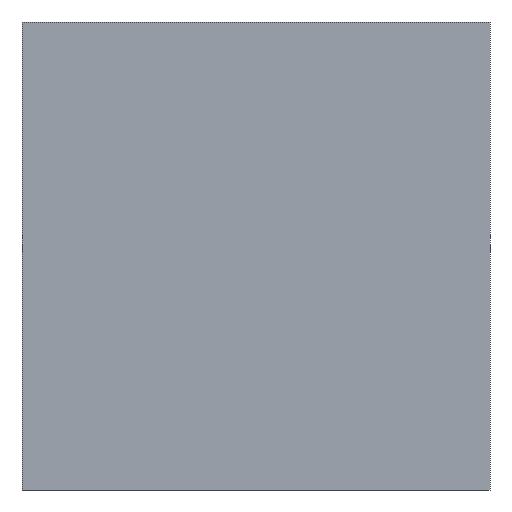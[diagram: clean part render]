
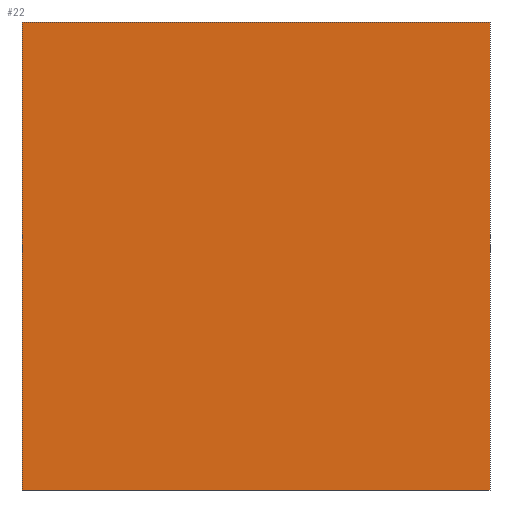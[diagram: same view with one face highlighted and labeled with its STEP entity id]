
A CAD part, front view. The second image highlights one B-rep face of the part: STEP entity #22.
In plain terms, the highlighted planar face has unit normal (0, -1, 0).
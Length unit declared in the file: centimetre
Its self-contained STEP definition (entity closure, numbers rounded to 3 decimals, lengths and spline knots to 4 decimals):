
#3 = ORIENTED_EDGE ( 'NONE', *, *, #261, .T. ) ;
#9 = VERTEX_POINT ( 'NONE', #180 ) ;
#12 = AXIS2_PLACEMENT_3D ( 'NONE', #203, #97, #37 ) ;
#16 = VERTEX_POINT ( 'NONE', #230 ) ;
#22 = ADVANCED_FACE ( 'NONE', ( #94 ), #54, .F. ) ;
#37 = DIRECTION ( 'NONE',  ( 0., 0., 1. ) ) ;
#40 = ORIENTED_EDGE ( 'NONE', *, *, #358, .F. ) ;
#54 = PLANE ( 'NONE',  #12 ) ;
#73 = CARTESIAN_POINT ( 'NONE',  ( 0., 0., 1000. ) ) ;
#86 = CARTESIAN_POINT ( 'NONE',  ( 0., 0., 0. ) ) ;
#88 = VECTOR ( 'NONE', #347, 100. ) ;
#94 = FACE_OUTER_BOUND ( 'NONE', #150, .T. ) ;
#97 = DIRECTION ( 'NONE',  ( 0., 1., 0. ) ) ;
#98 = CARTESIAN_POINT ( 'NONE',  ( 1000., 0., 1000. ) ) ;
#116 = CARTESIAN_POINT ( 'NONE',  ( 0., 0., 1000. ) ) ;
#150 = EDGE_LOOP ( 'NONE', ( #401, #40, #222, #3 ) ) ;
#180 = CARTESIAN_POINT ( 'NONE',  ( 0., 0., 0. ) ) ;
#203 = CARTESIAN_POINT ( 'NONE',  ( 0., 0., 1000. ) ) ;
#204 = VERTEX_POINT ( 'NONE', #216 ) ;
#209 = LINE ( 'NONE', #353, #88 ) ;
#216 = CARTESIAN_POINT ( 'NONE',  ( 1000., 0., 1000. ) ) ;
#219 = VECTOR ( 'NONE', #350, 100. ) ;
#222 = ORIENTED_EDGE ( 'NONE', *, *, #253, .F. ) ;
#226 = VECTOR ( 'NONE', #438, 100. ) ;
#230 = CARTESIAN_POINT ( 'NONE',  ( 1000., 0., 0. ) ) ;
#253 = EDGE_CURVE ( 'NONE', #280, #204, #392, .T. ) ;
#261 = EDGE_CURVE ( 'NONE', #280, #9, #209, .T. ) ;
#263 = LINE ( 'NONE', #98, #226 ) ;
#280 = VERTEX_POINT ( 'NONE', #116 ) ;
#297 = DIRECTION ( 'NONE',  ( 1., 0., 0. ) ) ;
#309 = EDGE_CURVE ( 'NONE', #9, #16, #359, .T. ) ;
#347 = DIRECTION ( 'NONE',  ( 0., 0., -1. ) ) ;
#350 = DIRECTION ( 'NONE',  ( 1., 0., 0. ) ) ;
#353 = CARTESIAN_POINT ( 'NONE',  ( 0., 0., 1000. ) ) ;
#358 = EDGE_CURVE ( 'NONE', #204, #16, #263, .T. ) ;
#359 = LINE ( 'NONE', #86, #404 ) ;
#392 = LINE ( 'NONE', #73, #219 ) ;
#401 = ORIENTED_EDGE ( 'NONE', *, *, #309, .T. ) ;
#404 = VECTOR ( 'NONE', #297, 100. ) ;
#438 = DIRECTION ( 'NONE',  ( 0., 0., -1. ) ) ;
